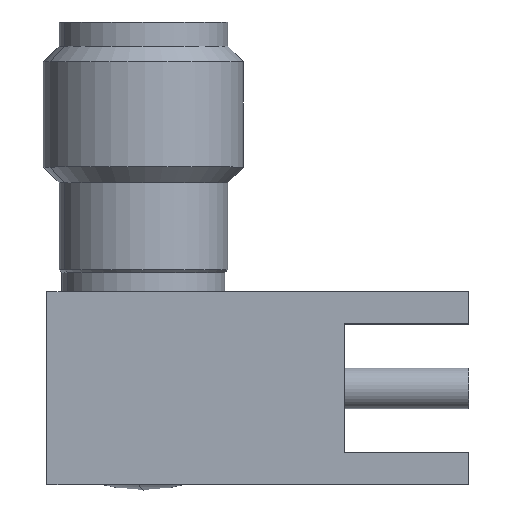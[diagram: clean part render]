
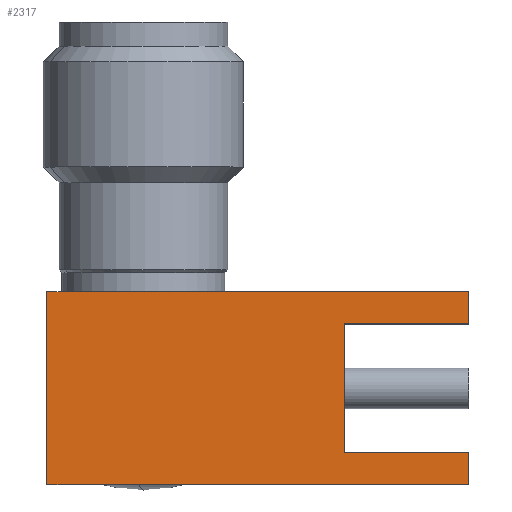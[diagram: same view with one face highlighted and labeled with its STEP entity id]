
A CAD part, top view. The second image highlights one B-rep face of the part: STEP entity #2317.
In plain terms, the highlighted planar face has unit normal (0, 0, 1).
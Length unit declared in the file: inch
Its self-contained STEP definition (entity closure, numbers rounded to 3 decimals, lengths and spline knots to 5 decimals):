
#31 = LINE ( 'NONE', #2321, #592 ) ;
#101 = ORIENTED_EDGE ( 'NONE', *, *, #866, .F. ) ;
#118 = LINE ( 'NONE', #1271, #843 ) ;
#134 = VECTOR ( 'NONE', #593, 39.37008 ) ;
#169 = CARTESIAN_POINT ( 'NONE',  ( 0.525, 0.12, 0.12 ) ) ;
#348 = EDGE_CURVE ( 'NONE', #1904, #1260, #2537, .T. ) ;
#358 = CARTESIAN_POINT ( 'NONE',  ( 0.37, -0.08, 0.12 ) ) ;
#367 = DIRECTION ( 'NONE',  ( -1., 0., 0. ) ) ;
#433 = DIRECTION ( 'NONE',  ( 0., -1., 0. ) ) ;
#438 = DIRECTION ( 'NONE',  ( 0., -1., 0. ) ) ;
#446 = EDGE_CURVE ( 'NONE', #916, #2131, #1475, .T. ) ;
#501 = CARTESIAN_POINT ( 'NONE',  ( 0., 0.12, 0.12 ) ) ;
#539 = EDGE_CURVE ( 'NONE', #2313, #2572, #1669, .T. ) ;
#592 = VECTOR ( 'NONE', #1323, 39.37008 ) ;
#593 = DIRECTION ( 'NONE',  ( 1., 0., 0. ) ) ;
#720 = CARTESIAN_POINT ( 'NONE',  ( 0.37, 0.08, 0.12 ) ) ;
#728 = EDGE_CURVE ( 'NONE', #2572, #1718, #1769, .T. ) ;
#749 = CARTESIAN_POINT ( 'NONE',  ( 0.525, -0.12, 0.12 ) ) ;
#813 = DIRECTION ( 'NONE',  ( 0., -1., 0. ) ) ;
#843 = VECTOR ( 'NONE', #1433, 39.37008 ) ;
#860 = EDGE_CURVE ( 'NONE', #1664, #2131, #118, .T. ) ;
#866 = EDGE_CURVE ( 'NONE', #1664, #2313, #2182, .T. ) ;
#916 = VERTEX_POINT ( 'NONE', #1930 ) ;
#1245 = CARTESIAN_POINT ( 'NONE',  ( 0., 0.12, 0.12 ) ) ;
#1260 = VERTEX_POINT ( 'NONE', #1428 ) ;
#1271 = CARTESIAN_POINT ( 'NONE',  ( 0.37, 0.08, 0.12 ) ) ;
#1323 = DIRECTION ( 'NONE',  ( -1., 0., 0. ) ) ;
#1410 = CARTESIAN_POINT ( 'NONE',  ( 0.525, 0.12, 0.12 ) ) ;
#1428 = CARTESIAN_POINT ( 'NONE',  ( 0., -0.12, 0.12 ) ) ;
#1433 = DIRECTION ( 'NONE',  ( 1., 0., 0. ) ) ;
#1466 = CARTESIAN_POINT ( 'NONE',  ( 0.37, 0.12, 0.12 ) ) ;
#1475 = LINE ( 'NONE', #1410, #1954 ) ;
#1532 = VECTOR ( 'NONE', #2130, 39.37008 ) ;
#1558 = PLANE ( 'NONE',  #1863 ) ;
#1574 = DIRECTION ( 'NONE',  ( 0., 0., -1. ) ) ;
#1664 = VERTEX_POINT ( 'NONE', #720 ) ;
#1669 = LINE ( 'NONE', #1800, #134 ) ;
#1718 = VERTEX_POINT ( 'NONE', #2305 ) ;
#1756 = CARTESIAN_POINT ( 'NONE',  ( 0.525, 0.08, 0.12 ) ) ;
#1769 = LINE ( 'NONE', #2000, #2205 ) ;
#1800 = CARTESIAN_POINT ( 'NONE',  ( 0.37, -0.08, 0.12 ) ) ;
#1861 = ORIENTED_EDGE ( 'NONE', *, *, #1951, .T. ) ;
#1863 = AXIS2_PLACEMENT_3D ( 'NONE', #169, #1574, #367 ) ;
#1876 = ORIENTED_EDGE ( 'NONE', *, *, #446, .F. ) ;
#1904 = VERTEX_POINT ( 'NONE', #501 ) ;
#1930 = CARTESIAN_POINT ( 'NONE',  ( 0.525, 0.12, 0.12 ) ) ;
#1951 = EDGE_CURVE ( 'NONE', #916, #1904, #31, .T. ) ;
#1954 = VECTOR ( 'NONE', #2006, 39.37008 ) ;
#1959 = ORIENTED_EDGE ( 'NONE', *, *, #728, .F. ) ;
#1982 = EDGE_CURVE ( 'NONE', #1718, #1260, #2577, .T. ) ;
#2000 = CARTESIAN_POINT ( 'NONE',  ( 0.525, 0.12, 0.12 ) ) ;
#2005 = VECTOR ( 'NONE', #438, 39.37008 ) ;
#2006 = DIRECTION ( 'NONE',  ( 0., -1., 0. ) ) ;
#2125 = VECTOR ( 'NONE', #433, 39.37008 ) ;
#2130 = DIRECTION ( 'NONE',  ( -1., 0., 0. ) ) ;
#2131 = VERTEX_POINT ( 'NONE', #1756 ) ;
#2168 = ORIENTED_EDGE ( 'NONE', *, *, #860, .T. ) ;
#2182 = LINE ( 'NONE', #1466, #2125 ) ;
#2200 = FACE_OUTER_BOUND ( 'NONE', #2364, .T. ) ;
#2205 = VECTOR ( 'NONE', #813, 39.37008 ) ;
#2259 = CARTESIAN_POINT ( 'NONE',  ( 0.525, -0.08, 0.12 ) ) ;
#2305 = CARTESIAN_POINT ( 'NONE',  ( 0.525, -0.12, 0.12 ) ) ;
#2313 = VERTEX_POINT ( 'NONE', #358 ) ;
#2317 = ADVANCED_FACE ( 'NONE', ( #2200 ), #1558, .F. ) ;
#2321 = CARTESIAN_POINT ( 'NONE',  ( 0.525, 0.12, 0.12 ) ) ;
#2364 = EDGE_LOOP ( 'NONE', ( #2586, #101, #2168, #1876, #1861, #2543, #2593, #1959 ) ) ;
#2537 = LINE ( 'NONE', #1245, #2005 ) ;
#2543 = ORIENTED_EDGE ( 'NONE', *, *, #348, .T. ) ;
#2572 = VERTEX_POINT ( 'NONE', #2259 ) ;
#2577 = LINE ( 'NONE', #749, #1532 ) ;
#2586 = ORIENTED_EDGE ( 'NONE', *, *, #539, .F. ) ;
#2593 = ORIENTED_EDGE ( 'NONE', *, *, #1982, .F. ) ;
